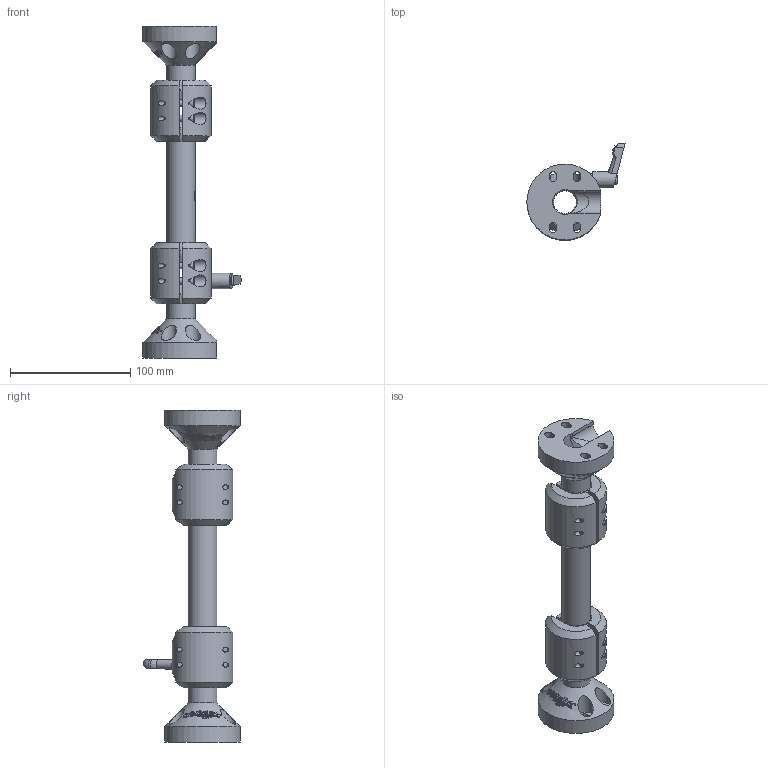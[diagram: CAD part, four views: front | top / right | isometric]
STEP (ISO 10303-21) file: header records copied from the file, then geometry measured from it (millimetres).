
FILE_DESCRIPTION (( 'STEP AP214' ), '1' );
FILE_NAME ('SLM-100100.STEP', '2021-10-26T11:26:36', ( '' ), ( '' ), 'SwSTEP 2.0', 'SolidWorks 2020', '' );
FILE_SCHEMA (( 'AUTOMOTIVE_DESIGN' ));
Length unit declared in the file: inch
Products named in the file (7): SLM-3-100_Swivellink Etching; SLM-2_Swivellink Etching; MSHCS-39547-BO_MSHCS-39547-BO; SLM-1_Swivellink Etching; SLM-Clamp Handle; SLM-100100; SLM-2
Assembly tree (11 placements, depth 3):
  SLM-100100
    SLM-1_Swivellink Etching  x2
    SLM-2  x2
      SLM-2_Swivellink Etching
      MSHCS-39547-BO_MSHCS-39547-BO
    SLM-3-100_Swivellink Etching
    SLM-Clamp Handle
Bounding box: 81.68 x 80.59 x 276.01 mm (x, y, z)
Volume: 146264.2 mm3; surface area: 94063 mm2
Topology: 15 solids, 20 shells, 779 faces, 6179 edges, 5799 vertices
Faces by surface type: cylinder 346, plane 203, cone 190, sphere 18, torus 18, bspline 4
Full cylindrical faces by diameter (mm): 2.459 x1, 4.2 x8, 4.5 x1, 4.877 x1, 5 x10, 5.8 x8, 7.938 x1, 8 x1, 8.3 x1, 8.5 x8, 10 x9, 12.7 x8, 13 x1, 19.05 x1, 20.638 x2, 23.812 x2, 23.813 x1, 28.321 x2
Entity records: 44687 total; most frequent: CARTESIAN_POINT 18059, ORIENTED_EDGE 6918, EDGE_CURVE 3461, VERTEX_POINT 3366, DIRECTION 2418, B_SPLINE_CURVE_WITH_KNOTS 2383, AXIS2_PLACEMENT_3D 940, EDGE_LOOP 704
